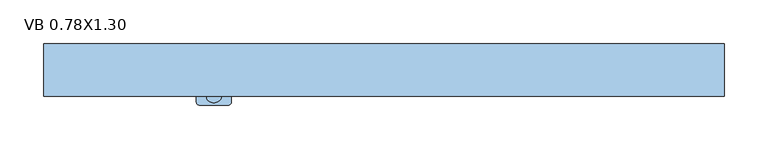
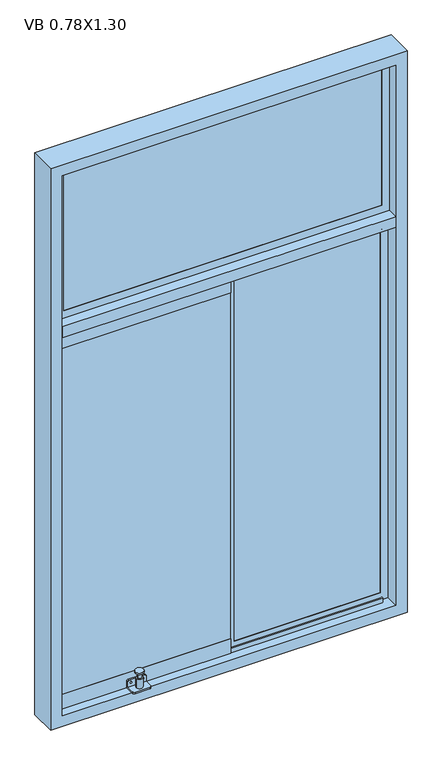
"""IFC4 building model written with IfcOpenShell, lengths in millimetres: window geometry, Ventana baja corrediza 2 cuerpos : VB 0.78X1.30."""

from ifc_helpers import new_model, si_unit, point, frame, frame_2d, origin, place, context, project, spatial, polyline, circle_curve, trimmed, segment, composite_curve, outline, extrude, faceted_brep, source, transform, mapped, element, save


def vb_0_78x1_30_f7b555fa(model_context):
    return source(origin(), model_context, "Body", "SolidModel", [
        extrude(outline(composite_curve([segment(trimmed(circle_curve(frame_2d((-195.0, -28.2738075)), 9.1519646), [point((-185.8480354, -28.2738075))], [point((-204.1519646, -28.2738075))], False, "CARTESIAN"), True, "CONTINUOUS"), segment(trimmed(circle_curve(frame_2d((-195.0, -28.2738075)), 9.1519646), [point((-204.1519646, -28.2738075))], [point((-185.8480354, -28.2738075))], False, "CARTESIAN"), True, "CONTINUOUS")], self_intersect=False)), frame((0.0, 0.0, 966.1518437), z_axis=(0.0, 0.0, 1.0), x_axis=(1.0, 0.0, 0.0)), (0.0, 0.0, 1.0), 3.4852564),
        extrude(outline(composite_curve([segment(trimmed(circle_curve(frame_2d((-195.0, -28.2738075)), 4.1308937), [point((-190.8691063, -28.2738075))], [point((-199.1308937, -28.2738075))], False, "CARTESIAN"), True, "CONTINUOUS"), segment(trimmed(circle_curve(frame_2d((-195.0, -28.2738075)), 4.1308937), [point((-199.1308937, -28.2738075))], [point((-190.8691063, -28.2738075))], False, "CARTESIAN"), True, "CONTINUOUS")], self_intersect=False)), frame((0.0, 0.0, 953.913316), z_axis=(0.0, 0.0, 1.0), x_axis=(1.0, 0.0, 0.0)), (0.0, 0.0, 1.0), 12.2385277),
        extrude(outline(composite_curve([segment(trimmed(circle_curve(frame_2d((-195.0, -28.2738075)), 7.026694), [point((-187.973306, -28.2738075))], [point((-202.026694, -28.2738075))], False, "CARTESIAN"), True, "CONTINUOUS"), segment(trimmed(circle_curve(frame_2d((-195.0, -28.2738075)), 7.026694), [point((-202.026694, -28.2738075))], [point((-187.973306, -28.2738075))], False, "CARTESIAN"), True, "CONTINUOUS")], self_intersect=False)), frame((0.0, 0.0, 932.1776083), z_axis=(0.0, 0.0, 1.0), x_axis=(1.0, 0.0, 0.0)), (0.0, 0.0, 1.0), 21.7357077),
        extrude(outline(composite_curve([segment(trimmed(circle_curve(frame_2d((945.1933283, -176.98428)), 1.98428), [point((945.1933283, -175.0))], [point((947.1776083, -176.98428))], False, "CARTESIAN"), True, "CONTINUOUS"), segment(polyline([(947.1776083, -176.98428), (947.1776083, -213.01572)]), True, "CONTINUOUS"), segment(trimmed(circle_curve(frame_2d((945.1933283, -213.01572)), 1.98428), [point((947.1776083, -213.01572))], [point((945.1933283, -215.0))], False, "CARTESIAN"), True, "CONTINUOUS"), segment(polyline([(945.1933283, -215.0), (932.1776083, -215.0), (932.1776083, -175.0), (945.1933283, -175.0)]), True, "CONTINUOUS")], self_intersect=False), holes=[composite_curve([segment(trimmed(circle_curve(frame_2d((940.5771467, -181.6646221)), 1.6750611), [point((940.5771467, -179.9895609))], [point((940.5771467, -183.3396832))], True, "CARTESIAN"), True, "CONTINUOUS"), segment(trimmed(circle_curve(frame_2d((940.5771467, -181.6646221)), 1.6750611), [point((940.5771467, -183.3396832))], [point((940.5771467, -179.9895609))], True, "CARTESIAN"), True, "CONTINUOUS")], self_intersect=False), composite_curve([segment(trimmed(circle_curve(frame_2d((940.5771467, -208.3353779)), 1.6750611), [point((940.5771467, -210.0104391))], [point((940.5771467, -206.6603168))], True, "CARTESIAN"), True, "CONTINUOUS"), segment(trimmed(circle_curve(frame_2d((940.5771467, -208.3353779)), 1.6750611), [point((940.5771467, -206.6603168))], [point((940.5771467, -210.0104391))], True, "CARTESIAN"), True, "CONTINUOUS")], self_intersect=False)]), frame((0.0, -19.1218429, 0.0), z_axis=(0.0, 1.0, 0.0), x_axis=(0.0, 0.0, 1.0)), (0.0, 0.0, 1.0), 4.012039),
        extrude(outline(composite_curve([segment(polyline([(-215.0, -15.1098039), (-175.0, -15.1098039), (-175.0, -36.2721359)]), True, "CONTINUOUS"), segment(trimmed(circle_curve(frame_2d((-178.8376681, -36.2721359)), 3.8376681), [point((-175.0, -36.2721359))], [point((-178.8376681, -40.1098039))], False, "CARTESIAN"), True, "CONTINUOUS"), segment(polyline([(-178.8376681, -40.1098039), (-211.1623319, -40.1098039)]), True, "CONTINUOUS"), segment(trimmed(circle_curve(frame_2d((-211.1623319, -36.2721359)), 3.8376681), [point((-211.1623319, -40.1098039))], [point((-215.0, -36.2721359))], False, "CARTESIAN"), True, "CONTINUOUS"), segment(polyline([(-215.0, -36.2721359), (-215.0, -15.1098039)]), True, "CONTINUOUS")], self_intersect=False)), frame((0.0, 0.0, 928.6104688), z_axis=(0.0, 0.0, 1.0), x_axis=(1.0, 0.0, 0.0)), (0.0, 0.0, 1.0), 3.5671395),
        extrude(outline(polyline([(-365.0, -13.9001865), (-365.0, -4.4001865), (12.5, -4.4001865), (12.5, -13.9001865), (-365.0, -13.9001865)])), frame((0.0, 0.0, 948.9759668), z_axis=(0.0, 0.0, 1.0), x_axis=(1.0, 0.0, 0.0)), (0.0, 0.0, 1.0), 827.0480665),
        extrude(outline(polyline([(361.40625, 1.2096174), (16.09375, 1.2096174), (16.09375, 10.7096174), (361.40625, 10.7096174), (361.40625, 1.2096174)])), frame((0.0, 0.0, 928.59375), z_axis=(0.0, 0.0, 1.0), x_axis=(1.0, 0.0, 0.0)), (0.0, 0.0, 1.0), 867.8125),
        extrude(outline(polyline([(361.40625, -4.75), (-361.40625, -4.75), (-361.40625, 4.75), (361.40625, 4.75), (361.40625, -4.75)])), frame((0.0, 0.0, 1828.59375), z_axis=(0.0, 0.0, 1.0), x_axis=(1.0, 0.0, 0.0)), (0.0, 0.0, 1.0), 342.8125),
        extrude(outline(composite_curve([segment(polyline([(-10.2821926, 1800.0), (0.0, 1800.0), (0.0, 1797.9830324), (-8.0182357, 1797.9830324), (-8.0182357, 1789.1628008)]), True, "CONTINUOUS"), segment(trimmed(circle_curve(frame_2d((-9.1502142, 1789.8593269)), 1.3291064), [point((-8.0182357, 1789.1628008))], [point((-10.2821926, 1789.1628008))], False, "CARTESIAN"), True, "CONTINUOUS"), segment(polyline([(-10.2821926, 1789.1628008), (-10.2821926, 1800.0)]), True, "CONTINUOUS")], self_intersect=False)), frame((-365.0, 0.0, 0.0), z_axis=(1.0, 0.0, 0.0), x_axis=(0.0, 1.0, 0.0)), (0.0, 0.0, 1.0), 713.2282521),
        extrude(outline(polyline([(-12.0251865, 1779.6177832), (-6.2751865, 1779.6177832), (-6.2751865, 1796.3895312), (-3.190569, 1796.3895312), (-3.190569, 1762.8460353), (-4.4001865, 1762.8460353), (-4.4001865, 1776.0240332), (-13.9001865, 1776.0240332), (-13.9001865, 1762.8460353), (-15.1098039, 1762.8460353), (-15.1098039, 1796.3895312), (-12.0251865, 1796.3895312), (-12.0251865, 1779.6177832)])), frame((-365.0, 0.0, 0.0), z_axis=(1.0, 0.0, 0.0), x_axis=(0.0, 1.0, 0.0)), (0.0, 0.0, 1.0), 377.5),
        extrude(outline(polyline([(-6.9867702, 1780.2900719), (-9.1501865, 1782.4534882), (-11.3136028, 1780.2900719), (-11.3136028, 1789.8233667), (-9.1501865, 1787.6599504), (-6.9867702, 1789.8233667), (-6.9867702, 1780.2900719)])), frame((-365.0, 0.0, 0.0), z_axis=(1.0, 0.0, 0.0), x_axis=(0.0, 1.0, 0.0)), (0.0, 0.0, 1.0), 377.5),
        faceted_brep([(29.2717479, 1.2096174, 1783.2282521), (29.2717479, 0.0, 1783.2282521), (29.2717479, 0.0, 941.7717479), (29.2717479, 1.2096174, 941.7717479), (16.09375, 10.7096174, 1796.40625), (16.09375, 1.2096174, 1796.40625), (16.09375, 1.2096174, 928.59375), (16.09375, 10.7096174, 928.59375), (29.2717479, 11.9192349, 1783.2282521), (29.2717479, 10.7096174, 1783.2282521), (29.2717479, 10.7096174, 941.7717479), (29.2717479, 11.9192349, 941.7717479), (12.5, 0.0, 1800.0), (12.5, 11.9192349, 1800.0), (12.5, 11.9192349, 925.0), (12.5, 0.0, 925.0), (348.2282521, 0.0, 941.7717479), (348.2282521, 1.2096174, 941.7717479), (361.40625, 1.2096174, 928.59375), (361.40625, 10.7096174, 928.59375), (348.2282521, 10.7096174, 941.7717479), (348.2282521, 11.9192349, 941.7717479), (365.0, 11.9192349, 925.0), (365.0, 0.0, 925.0), (348.2282521, 0.0, 1783.2282521), (348.2282521, 1.2096174, 1783.2282521), (361.40625, 1.2096174, 1796.40625), (361.40625, 10.7096174, 1796.40625), (348.2282521, 10.7096174, 1783.2282521), (348.2282521, 11.9192349, 1783.2282521), (365.0, 11.9192349, 1800.0), (365.0, 0.0, 1800.0)], [[[0, 1, 2, 3]], [[4, 5, 6, 7]], [[8, 9, 10, 11]], [[12, 13, 14, 15]], [[3, 2, 16, 17]], [[7, 6, 18, 19]], [[11, 10, 20, 21]], [[15, 14, 22, 23]], [[17, 16, 24, 25]], [[19, 18, 26, 27]], [[21, 20, 28, 29]], [[23, 22, 30, 31]], [[15, 23, 31, 12], [1, 24, 16, 2]], [[25, 24, 1, 0]], [[5, 26, 18, 6], [3, 17, 25, 0]], [[27, 26, 5, 4]], [[7, 19, 27, 4], [9, 28, 20, 10]], [[29, 28, 9, 8]], [[13, 30, 22, 14], [11, 21, 29, 8]], [[31, 30, 13, 12]]]),
        faceted_brep([(-365.0, -5.9596174, 2175.0), (-365.0, 5.9596174, 2175.0), (-365.0, 5.9596174, 1825.0), (-365.0, -5.9596174, 1825.0), (-348.2282521, -4.75, 2158.2282521), (-348.2282521, -5.9596174, 2158.2282521), (-348.2282521, -5.9596174, 1841.7717479), (-348.2282521, -4.75, 1841.7717479), (-361.40625, 4.75, 2171.40625), (-361.40625, -4.75, 2171.40625), (-361.40625, -4.75, 1828.59375), (-361.40625, 4.75, 1828.59375), (-348.2282521, 5.9596174, 2158.2282521), (-348.2282521, 4.75, 2158.2282521), (-348.2282521, 4.75, 1841.7717479), (-348.2282521, 5.9596174, 1841.7717479), (365.0, 5.9596174, 1825.0), (365.0, -5.9596174, 1825.0), (348.2282521, -5.9596174, 1841.7717479), (348.2282521, -4.75, 1841.7717479), (361.40625, -4.75, 1828.59375), (361.40625, 4.75, 1828.59375), (348.2282521, 4.75, 1841.7717479), (348.2282521, 5.9596174, 1841.7717479), (365.0, 5.9596174, 2175.0), (365.0, -5.9596174, 2175.0), (348.2282521, -5.9596174, 2158.2282521), (348.2282521, -4.75, 2158.2282521), (361.40625, -4.75, 2171.40625), (361.40625, 4.75, 2171.40625), (348.2282521, 4.75, 2158.2282521), (348.2282521, 5.9596174, 2158.2282521)], [[[0, 1, 2, 3]], [[4, 5, 6, 7]], [[8, 9, 10, 11]], [[12, 13, 14, 15]], [[3, 2, 16, 17]], [[7, 6, 18, 19]], [[11, 10, 20, 21]], [[15, 14, 22, 23]], [[17, 16, 24, 25]], [[19, 18, 26, 27]], [[21, 20, 28, 29]], [[23, 22, 30, 31]], [[25, 24, 1, 0]], [[3, 17, 25, 0], [5, 26, 18, 6]], [[27, 26, 5, 4]], [[9, 28, 20, 10], [7, 19, 27, 4]], [[29, 28, 9, 8]], [[11, 21, 29, 8], [13, 30, 22, 14]], [[31, 30, 13, 12]], [[1, 24, 16, 2], [15, 23, 31, 12]]]),
        extrude(outline(polyline([(12.5, 0.0), (-12.5, 0.0), (-12.5, 30.15), (12.5, 30.15), (12.5, 0.0)])), frame((0.0, 0.0, 925.0), z_axis=(0.0, 0.0, 1.0), x_axis=(1.0, 0.0, 0.0)), (0.0, 0.0, 1.0), 875.0),
        extrude(outline(polyline([(365.0, 30.15), (365.0, -30.15), (-365.0, -30.15), (-365.0, 30.15), (365.0, 30.15)])), frame((0.0, 0.0, 1800.0), z_axis=(0.0, 0.0, 1.0), x_axis=(1.0, 0.0, 0.0)), (0.0, 0.0, 1.0), 25.0),
        extrude(outline(polyline([(900.0, -390.0), (900.0, 390.0), (2200.0, 390.0), (2200.0, -390.0), (900.0, -390.0)]), holes=[polyline([(2175.0, -365.0), (2175.0, 365.0), (925.0, 365.0), (925.0, -365.0), (2175.0, -365.0)])]), frame((0.0, -30.15, 0.0), z_axis=(0.0, 1.0, 0.0), x_axis=(0.0, 0.0, 1.0)), (0.0, 0.0, 1.0), 60.3),
        extrude(outline(polyline([(-3.190569, 962.1539647), (-3.190569, 928.6104688), (-6.2751865, 928.6104688), (-6.2751865, 945.3822168), (-12.0251865, 945.3822168), (-12.0251865, 928.6104688), (-15.1098039, 928.6104688), (-15.1098039, 962.1539647), (-13.9001865, 962.1539647), (-13.9001865, 948.9759668), (-4.4001865, 948.9759668), (-4.4001865, 962.1539647), (-3.190569, 962.1539647)])), frame((-365.0, 0.0, 0.0), z_axis=(1.0, 0.0, 0.0), x_axis=(0.0, 1.0, 0.0)), (0.0, 0.0, 1.0), 377.5),
        extrude(outline(polyline([(-9.1501865, 942.5465118), (-6.9867702, 944.7099281), (-6.9867702, 935.1766333), (-9.1501865, 937.3400496), (-11.3136028, 935.1766333), (-11.3136028, 944.7099281), (-9.1501865, 942.5465118)])), frame((-365.0, 0.0, 0.0), z_axis=(1.0, 0.0, 0.0), x_axis=(0.0, 1.0, 0.0)), (0.0, 0.0, 1.0), 377.5),
        extrude(outline(composite_curve([segment(polyline([(-10.2821926, 925.0), (-10.2821926, 935.8371992)]), True, "CONTINUOUS"), segment(trimmed(circle_curve(frame_2d((-9.1502142, 935.1406731)), 1.3291064), [point((-10.2821926, 935.8371992))], [point((-8.0182357, 935.8371992))], False, "CARTESIAN"), True, "CONTINUOUS"), segment(polyline([(-8.0182357, 935.8371992), (-8.0182357, 927.0169676), (0.0, 927.0169676), (0.0, 925.0), (-10.2821926, 925.0)]), True, "CONTINUOUS")], self_intersect=False)), frame((-365.0, 0.0, 0.0), z_axis=(1.0, 0.0, 0.0), x_axis=(0.0, 1.0, 0.0)), (0.0, 0.0, 1.0), 713.2282521),
    ])


if __name__ == "__main__":
    model = new_model("IFC4")
    model_context = context("Model", 3, world=origin())
    ifc_project = project(units=[si_unit("LENGTHUNIT", "METRE", prefix="MILLI")], contexts=[model_context])
    site = spatial("IfcSite", under=ifc_project)
    building = spatial("IfcBuilding", under=site)
    placement = place(None, origin())
    vb_0_78x1_30_shape = vb_0_78x1_30_f7b555fa(model_context)
    element("IfcWindow", 1, ObjectType="Ventana baja corrediza 2 cuerpos : VB 0.78X1.30", at=placement, inside=building, context=model_context, shape_type="MappedRepresentation", body=[
        mapped(vb_0_78x1_30_shape, transform((0.0, 0.0, 0.0), x_axis=(1.0, 0.0, 0.0), y_axis=(0.0, 1.0, 0.0), z_axis=(0.0, 0.0, 1.0))),
    ])
    save(model, "model.ifc")
